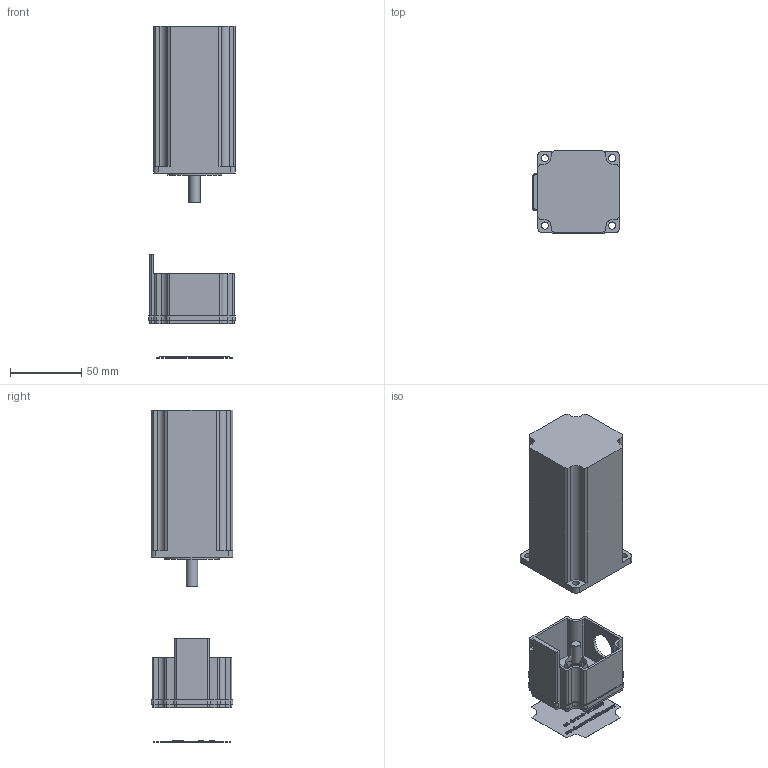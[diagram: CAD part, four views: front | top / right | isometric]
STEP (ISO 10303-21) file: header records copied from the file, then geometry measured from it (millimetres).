
FILE_DESCRIPTION(/* description */ ('Alibre Inc.'),/* implementation_level */ '2;1');
FILE_NAME(/* name */ 'export0',/* time_stamp */ '2008-02-02T08:57:42-08:00',/* author */ (''),/* organization */ (''),/* preprocessor_version */ 'ST-DEVELOPER v10',/* originating_system */ 'Alibre',/* authorisation */ '');
FILE_SCHEMA (('ALIBRE_SCHEMA','CONFIG_CONTROL_DESIGN'));
Length unit declared in the file: centimetre
Products named in the file (8): ID_1
Bounding box: 60.96 x 57.4 x 232.82 mm (x, y, z)
Volume: 328019.6 mm3; surface area: 60043.5 mm2
Topology: 62 solids, 62 shells, 1256 faces, 3293 edges, 2181 vertices
Faces by surface type: bspline 573, plane 560, cylinder 122, cone 1
Full cylindrical faces by diameter (mm): 1.216 x14, 5.08 x4, 6.35 x2, 7.976 x1, 8.89 x1, 14.732 x1, 15.24 x1, 16 x1, 19.99 x1, 38.1 x1
Entity records: 70335 total; most frequent: CARTESIAN_POINT 17993, ORIENTED_EDGE 6588, CONSTRAINTPAIRUV 4770, DIRECTION 4216, EDGE_CURVE 3263, REFERENCEPOINTUV 2913, PERSISTANTTOPOLOGYATTRIBUTE 2870, VECTOR 2795
